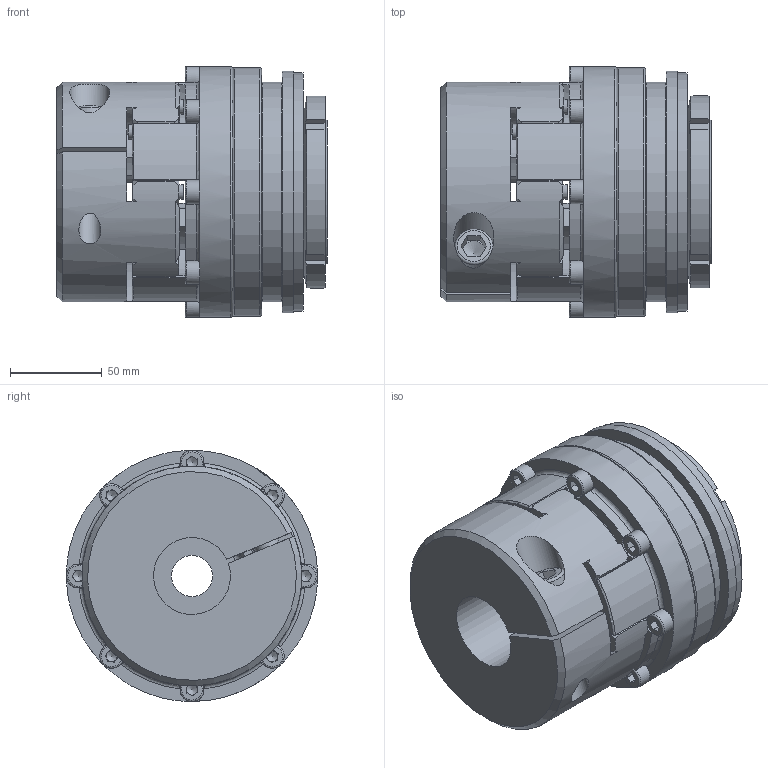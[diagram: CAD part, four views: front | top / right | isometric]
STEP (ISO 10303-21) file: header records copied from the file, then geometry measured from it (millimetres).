
FILE_DESCRIPTION( ( 'Unknown' ), '1' );
FILE_NAME( 'F:/JAKOB-STEP+IGES-Dateien/STEP-Dateien/SKW-EK/SKW-EK 800.stp', 'Unknown', ( 'Unknown' ), ( 'Unknown' ), 'PSStep 10.1', 'Unknown', ' ' );
FILE_SCHEMA( ( 'AUTOMOTIVE_DESIGN { 1 0 10303 214 1 1 1 1 }' ) );
Length unit declared in the file: millimetre
Products named in the file (1): SKW 800
Bounding box: 147.5 x 137 x 137 mm (x, y, z)
Volume: 1406392 mm3; surface area: 223392 mm2
Topology: 1 solids, 13 shells, 552 faces, 1566 edges, 1013 vertices
Faces by surface type: plane 232, cylinder 156, torus 82, cone 66, sphere 16
Full cylindrical faces by diameter (mm): 2.5 x2, 4.2 x3, 6.8 x8, 8 x16, 8.6 x8, 12 x1, 13 x8, 14 x1, 14.5 x1, 15 x1, 21 x1, 22 x1, 22.5 x1, 38 x1, 58 x2, 67 x1, 69.8 x1, 70 x2, 73 x1, 80 x2, 80.3 x1, 82.8 x2, 97.6 x2, 110 x3, 116 x2, 120 x1, 130 x1, 132 x1, 136 x1, 137 x1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
Entity records: 23456 total; most frequent: CARTESIAN_POINT 5909, DIRECTION 2698, ORIENTED_EDGE 2640, EDGE_CURVE 1320, AXIS2_PLACEMENT_3D 1139, VERTEX_POINT 914, EDGE_LOOP 755, FACE_OUTER_BOUND 639
